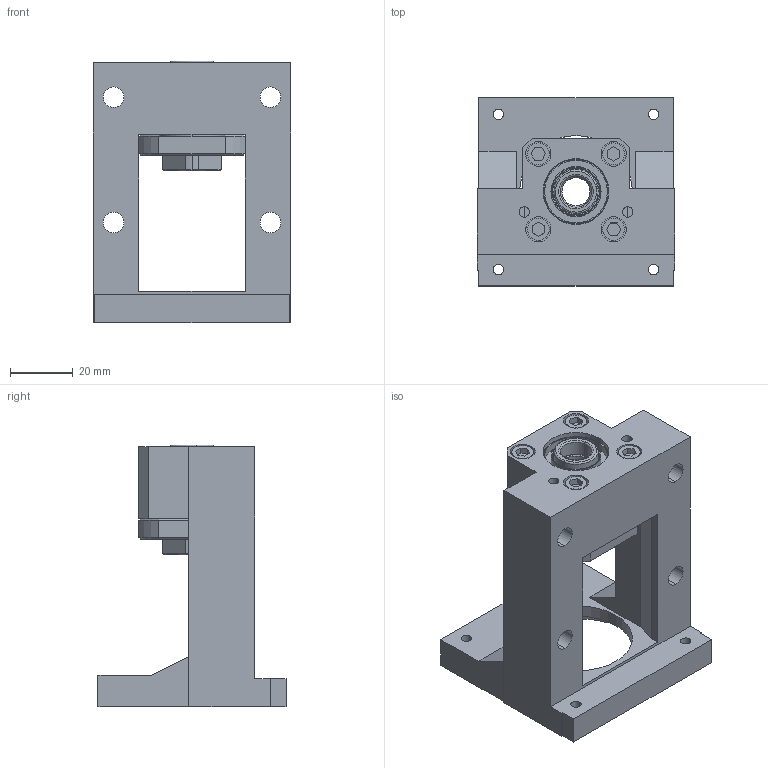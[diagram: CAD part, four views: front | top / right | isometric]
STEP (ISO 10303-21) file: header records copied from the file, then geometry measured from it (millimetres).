
FILE_DESCRIPTION (( 'STEP AP203' ), '1' );
FILE_NAME ('MBCF10-DP.STEP', '2018-11-27T00:36:55', ( '' ), ( '' ), 'SwSTEP 2.0', 'SolidWorks 2018', '' );
FILE_SCHEMA (( 'CONFIG_CONTROL_DESIGN' ));
Length unit declared in the file: millimetre
Products named in the file (1): MBCF10-DP
Bounding box: 63 x 60 x 83.5 mm (x, y, z)
Surface area: 30887.2 mm2 (no closed solid volume)
Topology: 0 solids, 18 shells, 244 faces, 639 edges, 421 vertices
Faces by surface type: plane 102, cylinder 85, cone 41, torus 12, bspline 4
Entity records: 8123 total; most frequent: CARTESIAN_POINT 1926, DIRECTION 1332, ORIENTED_EDGE 1157, EDGE_CURVE 639, AXIS2_PLACEMENT_3D 509, VERTEX_POINT 421, VECTOR 314, LINE 314
